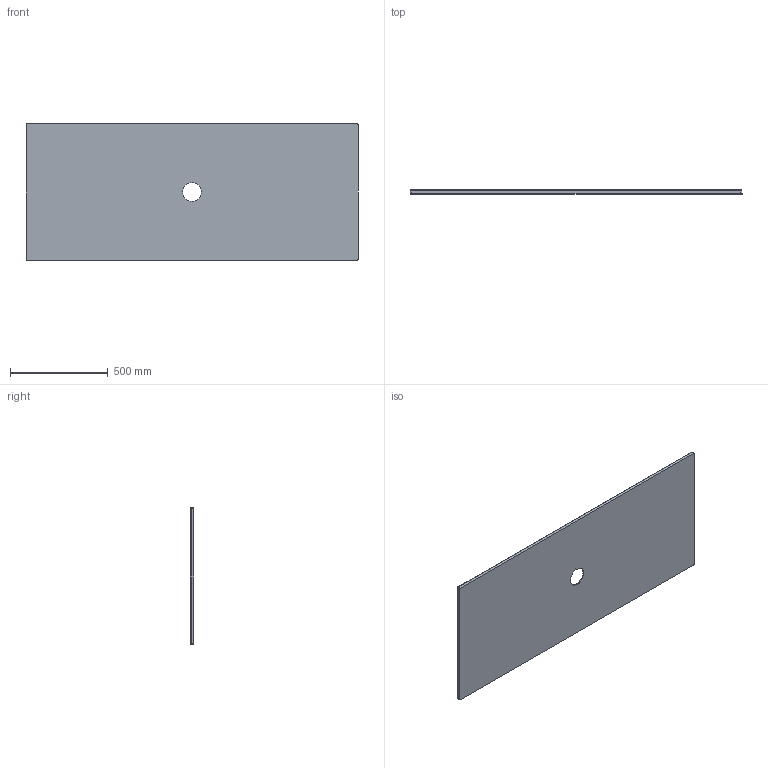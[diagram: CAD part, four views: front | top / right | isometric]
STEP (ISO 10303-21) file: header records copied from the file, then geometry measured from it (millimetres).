
FILE_DESCRIPTION (( 'STEP AP203' ), '1' );
FILE_NAME ('SDPD17007020.STEP', '2023-03-31T10:36:50', ( '' ), ( '' ), 'SwSTEP 2.0', 'SolidWorks 2023', '' );
FILE_SCHEMA (( 'CONFIG_CONTROL_DESIGN' ));
Length unit declared in the file: millimetre
Products named in the file (1): SDPD17007020
Bounding box: 1700 x 20 x 700 mm (x, y, z)
Volume: 20011314.9 mm3; surface area: 2441388.4 mm2
Topology: 1 solids, 1 shells, 26 faces, 62 edges, 40 vertices
Faces by surface type: cylinder 9, plane 8, sphere 4, bspline 2, torus 2, cone 1
Full cylindrical faces by diameter (mm): 95 x1
Entity records: 2609 total; most frequent: CARTESIAN_POINT 1993, DIRECTION 108, ORIENTED_EDGE 104, EDGE_CURVE 52, AXIS2_PLACEMENT_3D 44, EDGE_LOOP 36, VERTEX_POINT 36, FACE_OUTER_BOUND 31
